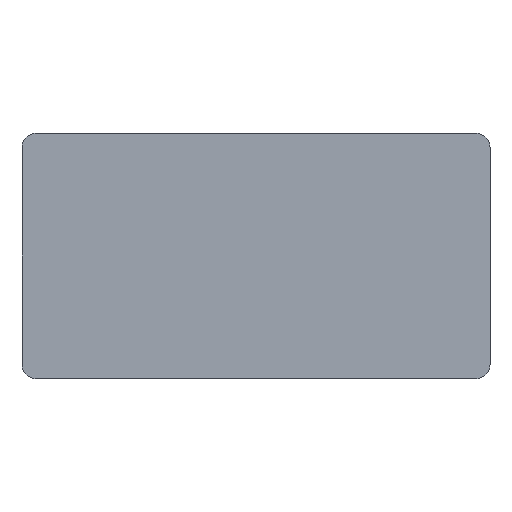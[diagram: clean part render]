
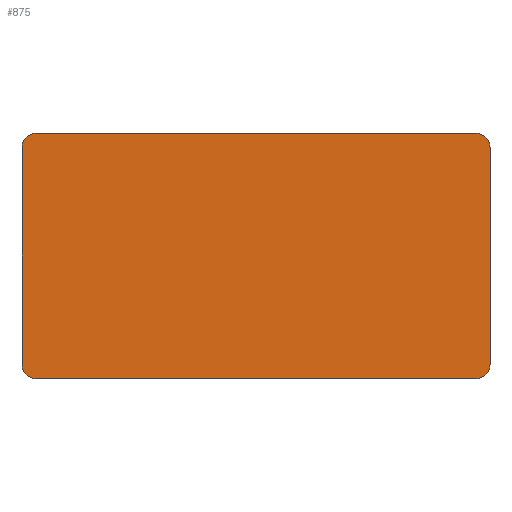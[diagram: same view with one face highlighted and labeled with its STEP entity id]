
A CAD part, front view. The second image highlights one B-rep face of the part: STEP entity #875.
In plain terms, the highlighted planar face has unit normal (0, -1, 0).
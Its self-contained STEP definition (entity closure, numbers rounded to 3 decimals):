
#12 = ORIENTED_EDGE ( 'NONE', *, *, #1276, .T. ) ;
#17 = VERTEX_POINT ( 'NONE', #212 ) ;
#19 = ORIENTED_EDGE ( 'NONE', *, *, #908, .F. ) ;
#75 = VERTEX_POINT ( 'NONE', #1773 ) ;
#153 = AXIS2_PLACEMENT_3D ( 'NONE', #703, #694, #686 ) ;
#166 = AXIS2_PLACEMENT_3D ( 'NONE', #811, #799, #793 ) ;
#170 = ORIENTED_EDGE ( 'NONE', *, *, #1254, .T. ) ;
#173 = ORIENTED_EDGE ( 'NONE', *, *, #987, .F. ) ;
#176 = AXIS2_PLACEMENT_3D ( 'NONE', #896, #1418, #844 ) ;
#187 = CARTESIAN_POINT ( 'NONE',  ( 24.5, 0., -12.85 ) ) ;
#212 = CARTESIAN_POINT ( 'NONE',  ( 24.5, 0., 11.35 ) ) ;
#221 = DIRECTION ( 'NONE',  ( 1., 0., 0. ) ) ;
#250 = CARTESIAN_POINT ( 'NONE',  ( -24.5, 0., -11.35 ) ) ;
#270 = CARTESIAN_POINT ( 'NONE',  ( -24.5, 0., 12.85 ) ) ;
#293 = VERTEX_POINT ( 'NONE', #941 ) ;
#298 = ORIENTED_EDGE ( 'NONE', *, *, #1218, .T. ) ;
#312 = ORIENTED_EDGE ( 'NONE', *, *, #1147, .F. ) ;
#322 = ORIENTED_EDGE ( 'NONE', *, *, #1206, .T. ) ;
#365 = ORIENTED_EDGE ( 'NONE', *, *, #842, .F. ) ;
#411 = DIRECTION ( 'NONE',  ( 0., 0., 1. ) ) ;
#419 = AXIS2_PLACEMENT_3D ( 'NONE', #946, #939, #933 ) ;
#433 = AXIS2_PLACEMENT_3D ( 'NONE', #954, #936, #928 ) ;
#527 = VERTEX_POINT ( 'NONE', #250 ) ;
#536 = VERTEX_POINT ( 'NONE', #1212 ) ;
#547 = CARTESIAN_POINT ( 'NONE',  ( 24.5, 0., -11.35 ) ) ;
#643 = CARTESIAN_POINT ( 'NONE',  ( -24.5, 0., -12.85 ) ) ;
#686 = DIRECTION ( 'NONE',  ( 0., 0., 1. ) ) ;
#694 = DIRECTION ( 'NONE',  ( 0., -1., 0. ) ) ;
#703 = CARTESIAN_POINT ( 'NONE',  ( -23., 0., 11.35 ) ) ;
#793 = DIRECTION ( 'NONE',  ( 0., 0., 1. ) ) ;
#799 = DIRECTION ( 'NONE',  ( 0., -1., 0. ) ) ;
#811 = CARTESIAN_POINT ( 'NONE',  ( 23., 0., 11.35 ) ) ;
#842 = EDGE_CURVE ( 'NONE', #527, #1384, #1748, .T. ) ;
#844 = DIRECTION ( 'NONE',  ( 0., 0., 1. ) ) ;
#875 = ADVANCED_FACE ( 'NONE', ( #1722 ), #943, .F. ) ;
#896 = CARTESIAN_POINT ( 'NONE',  ( 23., 0., -11.35 ) ) ;
#903 = CARTESIAN_POINT ( 'NONE',  ( 23., 0., -12.85 ) ) ;
#908 = EDGE_CURVE ( 'NONE', #293, #75, #1745, .T. ) ;
#928 = DIRECTION ( 'NONE',  ( 0., 0., 1. ) ) ;
#933 = DIRECTION ( 'NONE',  ( 0., 0., 1. ) ) ;
#936 = DIRECTION ( 'NONE',  ( 0., 1., 0. ) ) ;
#939 = DIRECTION ( 'NONE',  ( 0., -1., 0. ) ) ;
#941 = CARTESIAN_POINT ( 'NONE',  ( -23., 0., 12.85 ) ) ;
#943 = PLANE ( 'NONE',  #433 ) ;
#946 = CARTESIAN_POINT ( 'NONE',  ( -23., 0., -11.35 ) ) ;
#954 = CARTESIAN_POINT ( 'NONE',  ( 0., 0., 0. ) ) ;
#987 = EDGE_CURVE ( 'NONE', #17, #1828, #1690, .T. ) ;
#1017 = CARTESIAN_POINT ( 'NONE',  ( -24.5, 0., 11.35 ) ) ;
#1080 = EDGE_LOOP ( 'NONE', ( #365, #322, #312, #298, #173, #170, #19, #12 ) ) ;
#1147 = EDGE_CURVE ( 'NONE', #1272, #536, #1619, .T. ) ;
#1206 = EDGE_CURVE ( 'NONE', #527, #536, #1599, .T. ) ;
#1212 = CARTESIAN_POINT ( 'NONE',  ( -23., 0., -12.85 ) ) ;
#1218 = EDGE_CURVE ( 'NONE', #1272, #1828, #1577, .T. ) ;
#1254 = EDGE_CURVE ( 'NONE', #17, #75, #1575, .T. ) ;
#1272 = VERTEX_POINT ( 'NONE', #903 ) ;
#1276 = EDGE_CURVE ( 'NONE', #293, #1384, #1586, .T. ) ;
#1384 = VERTEX_POINT ( 'NONE', #1017 ) ;
#1418 = DIRECTION ( 'NONE',  ( 0., -1., 0. ) ) ;
#1575 = CIRCLE ( 'NONE', #166, 1.5 ) ;
#1577 = CIRCLE ( 'NONE', #176, 1.5 ) ;
#1582 = DIRECTION ( 'NONE',  ( -1., 0., 0. ) ) ;
#1586 = CIRCLE ( 'NONE', #153, 1.5 ) ;
#1599 = CIRCLE ( 'NONE', #419, 1.5 ) ;
#1600 = VECTOR ( 'NONE', #1582, 1000. ) ;
#1619 = LINE ( 'NONE', #1650, #1600 ) ;
#1650 = CARTESIAN_POINT ( 'NONE',  ( -24.5, 0., -12.85 ) ) ;
#1683 = VECTOR ( 'NONE', #1695, 1000. ) ;
#1690 = LINE ( 'NONE', #187, #1683 ) ;
#1695 = DIRECTION ( 'NONE',  ( 0., 0., -1. ) ) ;
#1701 = VECTOR ( 'NONE', #221, 1000. ) ;
#1722 = FACE_OUTER_BOUND ( 'NONE', #1080, .T. ) ;
#1734 = VECTOR ( 'NONE', #411, 1000. ) ;
#1745 = LINE ( 'NONE', #270, #1701 ) ;
#1748 = LINE ( 'NONE', #643, #1734 ) ;
#1773 = CARTESIAN_POINT ( 'NONE',  ( 23., 0., 12.85 ) ) ;
#1828 = VERTEX_POINT ( 'NONE', #547 ) ;
